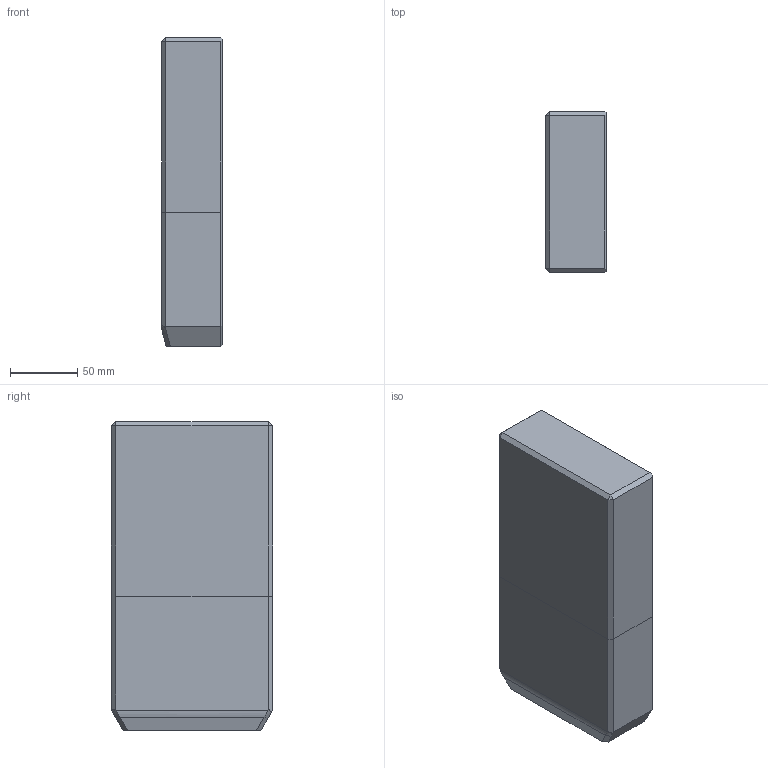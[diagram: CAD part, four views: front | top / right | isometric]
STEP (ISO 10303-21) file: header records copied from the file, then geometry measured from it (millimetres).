
FILE_DESCRIPTION((''),'2;1');
FILE_NAME('','2010-08-30T18:06:40+09:00',('misumi'),(''),'M/STEP i/f 1R2-14','CADmeister v5.1','');
FILE_SCHEMA(('AUTOMOTIVE_DESIGN'));
Length unit declared in the file: millimetre
Products named in the file (1): OGG120-230
Bounding box: 45 x 120 x 230 mm (x, y, z)
Volume: 1227172.1 mm3; surface area: 85052.8 mm2
Topology: 1 solids, 1 shells, 36 faces, 82 edges, 49 vertices
Faces by surface type: plane 28, bspline 5, cylinder 3
Entity records: 1556 total; most frequent: CARTESIAN_POINT 711, ORIENTED_EDGE 164, DIRECTION 134, EDGE_CURVE 82, LINE 62, VECTOR 62, VERTEX_POINT 49, EDGE_LOOP 37
